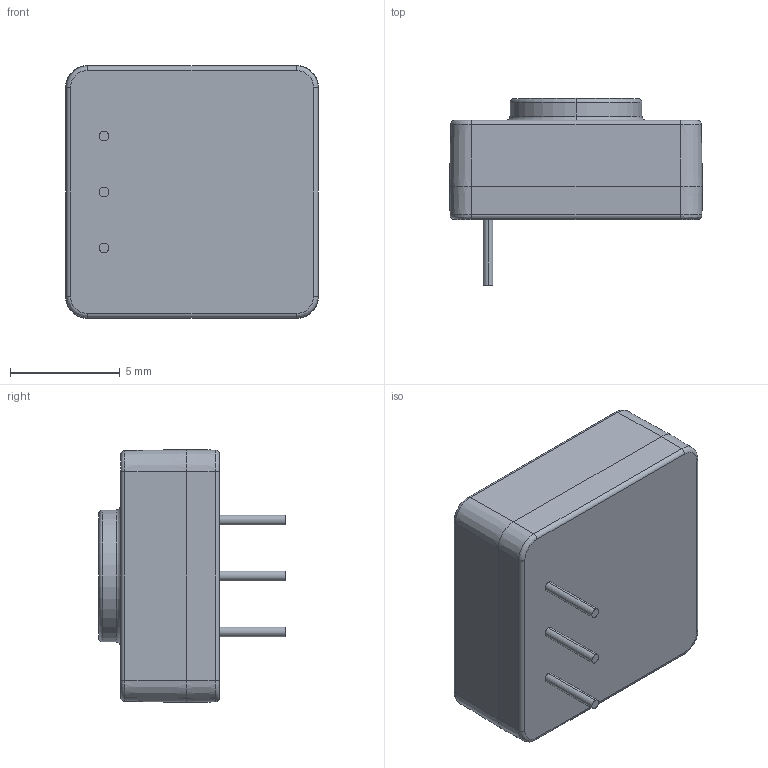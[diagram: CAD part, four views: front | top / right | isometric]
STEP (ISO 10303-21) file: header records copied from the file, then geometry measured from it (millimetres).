
FILE_DESCRIPTION (( 'STEP AP214' ), '1' );
FILE_NAME ('PS1 Sensor 3D SGX.STEP', '2023-02-02T13:01:22', ( '' ), ( '' ), 'SwSTEP 2.0', 'SolidWorks 2022', '' );
FILE_SCHEMA (( 'AUTOMOTIVE_DESIGN' ));
Length unit declared in the file: millimetre
Products named in the file (1): PS1 Sensor 3D SGX
Bounding box: 11.5 x 8.5 x 11.5 mm (x, y, z)
Volume: 613 mm3; surface area: 489.4 mm2
Topology: 1 solids, 1 shells, 56 faces, 116 edges, 68 vertices
Faces by surface type: cylinder 20, plane 16, torus 8, cone 8, bspline 4
Entity records: 1558 total; most frequent: CARTESIAN_POINT 313, DIRECTION 282, ORIENTED_EDGE 232, AXIS2_PLACEMENT_3D 117, EDGE_CURVE 116, VERTEX_POINT 68, CIRCLE 64, EDGE_LOOP 62
